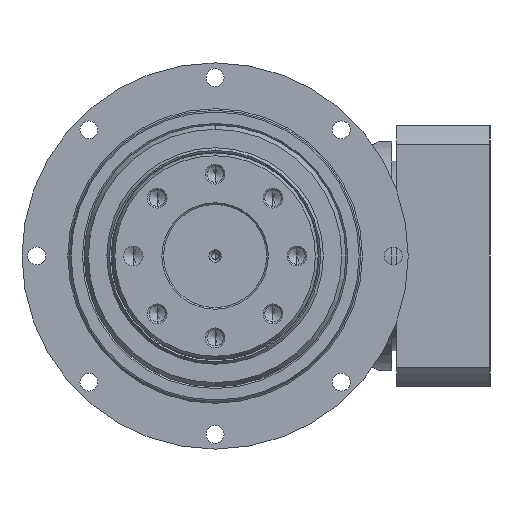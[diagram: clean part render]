
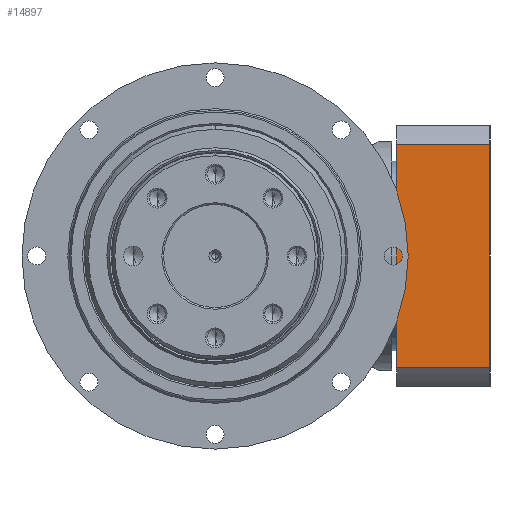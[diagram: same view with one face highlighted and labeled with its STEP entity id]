
A CAD part, left-side view. The second image highlights one B-rep face of the part: STEP entity #14897.
In plain terms, the highlighted planar face has unit normal (-1, 0, 0).
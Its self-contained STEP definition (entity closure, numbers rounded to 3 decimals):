
#86 = CARTESIAN_POINT ( 'NONE',  ( 35.5, 94.477, 40. ) ) ;
#492 = LINE ( 'NONE', #2200, #8310 ) ;
#1393 = VERTEX_POINT ( 'NONE', #16336 ) ;
#2200 = CARTESIAN_POINT ( 'NONE',  ( 35.5, -84., 40. ) ) ;
#2250 = ORIENTED_EDGE ( 'NONE', *, *, #8813, .T. ) ;
#2338 = AXIS2_PLACEMENT_3D ( 'NONE', #86, #17341, #10061 ) ;
#3432 = CARTESIAN_POINT ( 'NONE',  ( 35.5, -51.5, 34.004 ) ) ;
#4971 = LINE ( 'NONE', #11709, #16408 ) ;
#5032 = DIRECTION ( 'NONE',  ( 0., 1., 0. ) ) ;
#5541 = CARTESIAN_POINT ( 'NONE',  ( 35.5, -55.5, -34.004 ) ) ;
#5899 = LINE ( 'NONE', #17479, #18432 ) ;
#5968 = ORIENTED_EDGE ( 'NONE', *, *, #17230, .T. ) ;
#7597 = ORIENTED_EDGE ( 'NONE', *, *, #18154, .F. ) ;
#7708 = VECTOR ( 'NONE', #5032, 1000. ) ;
#8310 = VECTOR ( 'NONE', #13752, 1000. ) ;
#8631 = PLANE ( 'NONE',  #2338 ) ;
#8808 = EDGE_CURVE ( 'NONE', #1393, #18373, #4971, .T. ) ;
#8813 = EDGE_CURVE ( 'NONE', #18373, #14773, #5899, .T. ) ;
#8886 = DIRECTION ( 'NONE',  ( 0., -1., 0. ) ) ;
#9423 = EDGE_LOOP ( 'NONE', ( #5968, #11025, #2250, #7597 ) ) ;
#10061 = DIRECTION ( 'NONE',  ( 0., 0., -1. ) ) ;
#11025 = ORIENTED_EDGE ( 'NONE', *, *, #8808, .T. ) ;
#11709 = CARTESIAN_POINT ( 'NONE',  ( 35.5, -55.5, -29. ) ) ;
#11952 = LINE ( 'NONE', #3432, #7708 ) ;
#13752 = DIRECTION ( 'NONE',  ( 0., 0., -1. ) ) ;
#14067 = CARTESIAN_POINT ( 'NONE',  ( 35.5, -84., -34.004 ) ) ;
#14695 = FACE_OUTER_BOUND ( 'NONE', #9423, .T. ) ;
#14773 = VERTEX_POINT ( 'NONE', #14067 ) ;
#14897 = ADVANCED_FACE ( 'NONE', ( #14695 ), #8631, .T. ) ;
#15247 = VERTEX_POINT ( 'NONE', #15535 ) ;
#15535 = CARTESIAN_POINT ( 'NONE',  ( 35.5, -84., 34.004 ) ) ;
#16336 = CARTESIAN_POINT ( 'NONE',  ( 35.5, -55.5, 34.004 ) ) ;
#16408 = VECTOR ( 'NONE', #17354, 1000. ) ;
#17230 = EDGE_CURVE ( 'NONE', #15247, #1393, #11952, .T. ) ;
#17341 = DIRECTION ( 'NONE',  ( -1., 0., 0. ) ) ;
#17354 = DIRECTION ( 'NONE',  ( 0., 0., -1. ) ) ;
#17479 = CARTESIAN_POINT ( 'NONE',  ( 35.5, -51.5, -34.004 ) ) ;
#18154 = EDGE_CURVE ( 'NONE', #15247, #14773, #492, .T. ) ;
#18373 = VERTEX_POINT ( 'NONE', #5541 ) ;
#18432 = VECTOR ( 'NONE', #8886, 1000. ) ;
